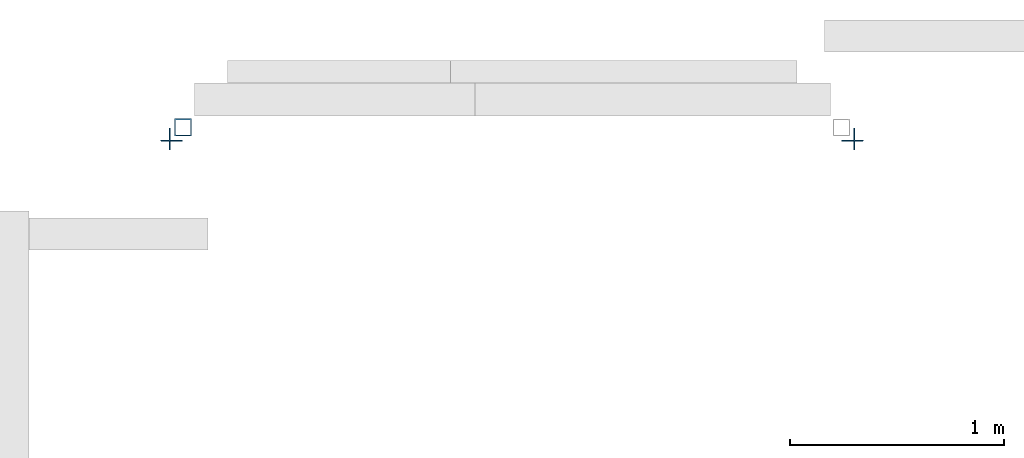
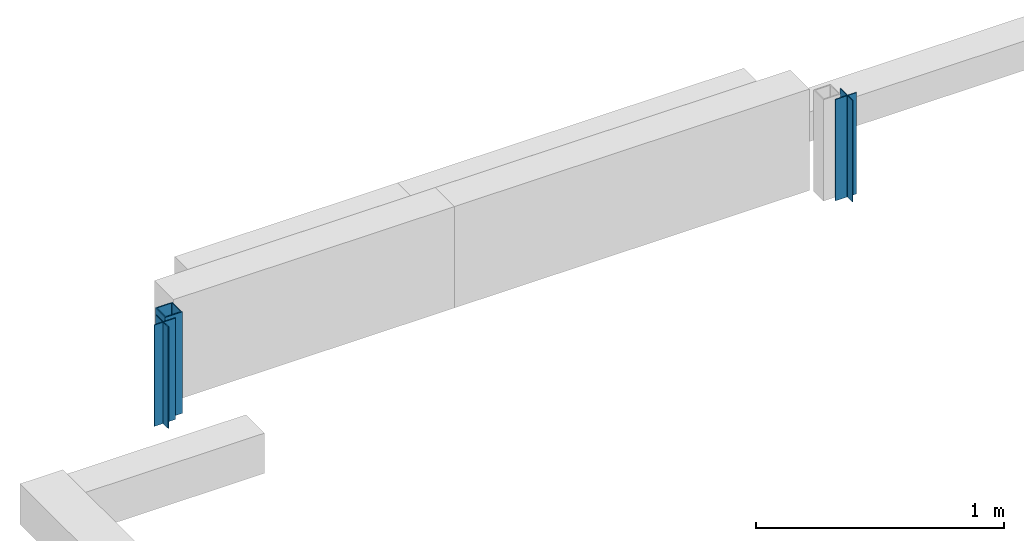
# One storey, part 2 of 3: 3 columns.
"""IFC2X3 building model written with IfcOpenShell, lengths in millimetres."""

from ifc_helpers import new_model, entity, si_unit, converted_unit, derived_unit, direction, frame, origin_with_axes, place, context, subcontext, project, spatial, faceted_brep, material, type_object, element, save


model = new_model("IFC2X3")

# Units and contexts
model_context = context("Model", 3, precision=0.01, world=frame((0.0, 4.29681676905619e-09, 0.0)), true_north=direction((4.01073788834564e-13, 1.0)))
plan_context = context("Plan", 3, precision=0.01, world=frame((0.0, 4.29681676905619e-09, 0.0)), true_north=direction((4.01073788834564e-13, 1.0)))
body_context = subcontext(model_context, "Body", "Model", "MODEL_VIEW")
ifc_project = project(units=[converted_unit("PLANEANGLEUNIT", "DEGREE", entity("IfcPositiveLengthMeasure", 0.0174532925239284), si_unit("PLANEANGLEUNIT", "RADIAN"), dimensions=[0, 0, 0, 0, 0, 0, 0]), si_unit("AREAUNIT", "SQUARE_METRE"), si_unit("LENGTHUNIT", "METRE", prefix="MILLI"), si_unit("MASSUNIT", "GRAM", prefix="KILO"), si_unit("POWERUNIT", "WATT"), si_unit("PRESSUREUNIT", "PASCAL"), si_unit("FORCEUNIT", "NEWTON", prefix="KILO"), si_unit("ELECTRICVOLTAGEUNIT", "VOLT"), si_unit("ELECTRICCURRENTUNIT", "AMPERE"), si_unit("THERMODYNAMICTEMPERATUREUNIT", "DEGREE_CELSIUS"), si_unit("TIMEUNIT", "SECOND"), si_unit("VOLUMEUNIT", "CUBIC_METRE"), derived_unit("LINEARVELOCITYUNIT", [(si_unit("LENGTHUNIT", "METRE"), 1), (si_unit("TIMEUNIT", "SECOND"), -1)]), derived_unit("VOLUMETRICFLOWRATEUNIT", [(si_unit("VOLUMEUNIT", "CUBIC_METRE"), 1), (si_unit("TIMEUNIT", "SECOND"), -1)]), derived_unit("THERMALTRANSMITTANCEUNIT", [(si_unit("POWERUNIT", "WATT"), 1), (si_unit("THERMODYNAMICTEMPERATUREUNIT", "KELVIN"), -1), (si_unit("AREAUNIT", "SQUARE_METRE"), -1)]), derived_unit("SOUNDPRESSUREUNIT", [(si_unit("PRESSUREUNIT", "PASCAL"), 1)])], contexts=[model_context, plan_context])

# Site, building, storey
site_placement = place(None, origin_with_axes())
site = spatial("IfcSite", under=ifc_project, at=site_placement, Name="ENGM", CompositionType="ELEMENT")
building_placement = place(site_placement, origin_with_axes())
building = spatial("IfcBuilding", under=site, at=building_placement, Name="TI", CompositionType="ELEMENT")
storey_placement = place(building_placement, frame((0.0, 0.0, 213700.0), z_axis=(0.0, 0.0, 1.0), x_axis=(1.0, 0.0, 0.0)))
storey = spatial("IfcBuildingStorey", under=building, at=storey_placement, Name="Nivå G - 2,0m", CompositionType="ELEMENT", Elevation=213700.0)

# Columns
ifc_material_1 = material(Name="_NSW Stål")
column_type_1 = type_object("IfcColumnType", Name="B222 - HUP:B222 - HUP - 80 x 80 x 5 mm", PredefinedType="COLUMN", material=ifc_material_1)
column_1_placement = place(storey_placement, frame((598989.513867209, 698974.999999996, -213700.0), z_axis=(0.0, 0.0, 1.0), x_axis=(-1.0, 0.0, 0.0)))
element("IfcColumn", 1, at=column_1_placement, inside=storey, type_object=column_type_1, Name="B222 - HUP:B222 - HUP - 80 x 80 x 5 mm", ObjectType="B222 - HUP:B222 - HUP - 80 x 80 x 5 mm", context=body_context, shape_type="Brep", body=[
    faceted_brep([(32.8910861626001, -34.969220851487, 214200.0), (32.4999999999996, -35.0, 214200.0), (32.4999999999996, -35.0, 213700.0), (32.8910861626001, -34.969220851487, 213700.0), (-32.4999999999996, -35.0, 214200.0), (-32.4999999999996, -35.0, 213700.0), (-32.9341204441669, -34.9620193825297, 214200.0), (-32.9341204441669, -34.9620193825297, 213700.0), (-33.3550503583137, -34.8492315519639, 214200.0), (-33.3550503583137, -34.8492315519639, 213700.0), (-33.7499999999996, -34.6650635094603, 214200.0), (-33.7499999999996, -34.6650635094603, 213700.0), (-34.1069690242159, -34.4151111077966, 214200.0), (-34.1069690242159, -34.4151111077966, 213700.0), (-34.415111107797, -34.1069690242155, 214200.0), (-34.415111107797, -34.1069690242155, 213700.0), (-34.6650635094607, -33.7499999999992, 214200.0), (-34.6650635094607, -33.7499999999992, 213700.0), (-34.8492315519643, -33.3550503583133, 214200.0), (-34.8492315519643, -33.3550503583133, 213700.0), (-34.9620193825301, -32.9341204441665, 214200.0), (-34.9620193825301, -32.9341204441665, 213700.0), (-35.0, -32.4999999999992, 214200.0), (-35.0, -32.4999999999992, 213700.0), (-35.0, 32.5000000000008, 214200.0), (-35.0, 32.5000000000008, 213700.0), (-34.9620193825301, 32.9341204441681, 214200.0), (-34.9620193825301, 32.9341204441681, 213700.0), (-34.8492315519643, 33.355050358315, 214200.0), (-34.8492315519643, 33.355050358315, 213700.0), (-34.6650635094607, 33.7500000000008, 214200.0), (-34.6650635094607, 33.7500000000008, 213700.0), (-34.415111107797, 34.1069690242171, 214200.0), (-34.415111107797, 34.1069690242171, 213700.0), (-34.1069690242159, 34.4151111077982, 214200.0), (-34.1069690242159, 34.4151111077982, 213700.0), (-33.7499999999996, 34.6650635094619, 214200.0), (-33.7499999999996, 34.6650635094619, 213700.0), (-33.3550503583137, 34.8492315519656, 214200.0), (-33.3550503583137, 34.8492315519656, 213700.0), (-32.9341204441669, 34.9620193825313, 214200.0), (-32.9341204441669, 34.9620193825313, 213700.0), (-32.4999999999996, 35.0000000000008, 214200.0), (-32.4999999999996, 35.0000000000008, 213700.0), (32.4999999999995, 35.0000000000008, 214200.0), (32.4999999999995, 35.0000000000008, 213700.0), (32.8910861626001, 34.9692208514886, 214200.0), (32.8910861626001, 34.9692208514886, 213700.0), (33.2725424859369, 34.8776412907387, 214200.0), (33.2725424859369, 34.8776412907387, 213700.0), (33.6349762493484, 34.7275163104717, 214200.0), (33.6349762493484, 34.7275163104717, 213700.0), (33.9694631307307, 34.5225424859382, 214200.0), (33.9694631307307, 34.5225424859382, 213700.0), (34.2677669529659, 34.2677669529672, 214200.0), (34.2677669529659, 34.2677669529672, 213700.0), (34.5225424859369, 33.969463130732, 214200.0), (34.5225424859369, 33.969463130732, 213700.0), (34.7275163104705, 33.6349762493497, 214200.0), (34.7275163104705, 33.6349762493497, 213700.0), (34.8776412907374, 33.2725424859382, 214200.0), (34.8776412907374, 33.2725424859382, 213700.0), (34.9692208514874, 32.8910861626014, 214200.0), (34.9692208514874, 32.8910861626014, 213700.0), (35.0, 32.5000000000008, 214200.0), (35.0, 32.5000000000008, 213700.0), (35.0, -32.4999999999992, 214200.0), (35.0, -32.4999999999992, 213700.0), (34.9692208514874, -32.8910861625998, 214200.0), (34.9692208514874, -32.8910861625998, 213700.0), (34.8776412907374, -33.2725424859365, 214200.0), (34.8776412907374, -33.2725424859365, 213700.0), (34.7275163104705, -33.634976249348, 214200.0), (34.7275163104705, -33.634976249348, 213700.0), (34.5225424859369, -33.9694631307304, 214200.0), (34.5225424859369, -33.9694631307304, 213700.0), (34.2677669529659, -34.2677669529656, 214200.0), (34.2677669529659, -34.2677669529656, 213700.0), (33.9694631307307, -34.5225424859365, 214200.0), (33.9694631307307, -34.5225424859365, 213700.0), (33.6349762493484, -34.7275163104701, 214200.0), (33.6349762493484, -34.7275163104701, 213700.0), (33.2725424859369, -34.8776412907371, 214200.0), (33.2725424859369, -34.8776412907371, 213700.0), (-35.0, -40.0, 214200.0), (34.9999999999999, -40.0, 214200.0), (34.9999999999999, -40.0, 213700.0), (-35.0, -40.0, 213700.0), (35.8682408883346, -39.924038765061, 214200.0), (35.8682408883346, -39.924038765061, 213700.0), (36.7101007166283, -39.6984631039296, 214200.0), (36.7101007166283, -39.6984631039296, 213700.0), (37.4999999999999, -39.3301270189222, 214200.0), (37.4999999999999, -39.3301270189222, 213700.0), (38.2139380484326, -38.8302222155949, 214200.0), (38.2139380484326, -38.8302222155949, 213700.0), (38.8302222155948, -38.2139380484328, 214200.0), (38.8302222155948, -38.2139380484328, 213700.0), (39.3301270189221, -37.5000000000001, 214200.0), (39.3301270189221, -37.5000000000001, 213700.0), (39.6984631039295, -36.7101007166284, 214200.0), (39.6984631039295, -36.7101007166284, 213700.0), (39.924038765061, -35.8682408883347, 214200.0), (39.924038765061, -35.8682408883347, 213700.0), (40.0, -35.0, 214200.0), (40.0, -35.0, 213700.0), (40.0, 34.9999999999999, 214200.0), (40.0, 34.9999999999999, 213700.0), (39.9384417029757, 35.7821723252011, 214200.0), (39.9384417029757, 35.7821723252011, 213700.0), (39.7552825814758, 36.5450849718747, 214200.0), (39.7552825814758, 36.5450849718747, 213700.0), (39.4550326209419, 37.2699524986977, 214200.0), (39.4550326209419, 37.2699524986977, 213700.0), (39.0450849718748, 37.9389262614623, 214200.0), (39.0450849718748, 37.9389262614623, 213700.0), (38.5355339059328, 38.5355339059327, 214200.0), (38.5355339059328, 38.5355339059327, 213700.0), (37.9389262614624, 39.0450849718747, 214200.0), (37.9389262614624, 39.0450849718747, 213700.0), (37.2699524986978, 39.4550326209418, 214200.0), (37.2699524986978, 39.4550326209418, 213700.0), (36.5450849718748, 39.7552825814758, 214200.0), (36.5450849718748, 39.7552825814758, 213700.0), (35.7821723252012, 39.9384417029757, 214200.0), (35.7821723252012, 39.9384417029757, 213700.0), (35.0, 40.0, 214200.0), (35.0, 40.0, 213700.0), (-35.0, 40.0, 214200.0), (-35.0, 40.0, 213700.0), (-35.8682408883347, 39.924038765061, 214200.0), (-35.8682408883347, 39.924038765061, 213700.0), (-36.7101007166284, 39.6984631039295, 214200.0), (-36.7101007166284, 39.6984631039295, 213700.0), (-37.5, 39.3301270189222, 214200.0), (-37.5, 39.3301270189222, 213700.0), (-38.2139380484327, 38.8302222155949, 214200.0), (-38.2139380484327, 38.8302222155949, 213700.0), (-38.8302222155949, 38.2139380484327, 214200.0), (-38.8302222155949, 38.2139380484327, 213700.0), (-39.3301270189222, 37.5, 214200.0), (-39.3301270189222, 37.5, 213700.0), (-39.6984631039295, 36.7101007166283, 214200.0), (-39.6984631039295, 36.7101007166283, 213700.0), (-39.924038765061, 35.8682408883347, 214200.0), (-39.924038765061, 35.8682408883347, 213700.0), (-40.0, 35.0, 214200.0), (-40.0, 35.0, 213700.0), (-40.0, -35.0, 214200.0), (-40.0, -35.0, 213700.0), (-39.924038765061, -35.8682408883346, 214200.0), (-39.924038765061, -35.8682408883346, 213700.0), (-39.6984631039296, -36.7101007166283, 214200.0), (-39.6984631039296, -36.7101007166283, 213700.0), (-39.3301270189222, -37.5, 214200.0), (-39.3301270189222, -37.5, 213700.0), (-38.8302222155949, -38.2139380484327, 214200.0), (-38.8302222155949, -38.2139380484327, 213700.0), (-38.2139380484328, -38.8302222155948, 214200.0), (-38.2139380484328, -38.8302222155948, 213700.0), (-37.5000000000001, -39.3301270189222, 214200.0), (-37.5000000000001, -39.3301270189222, 213700.0), (-36.7101007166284, -39.6984631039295, 214200.0), (-36.7101007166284, -39.6984631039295, 213700.0), (-35.8682408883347, -39.924038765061, 214200.0), (-35.8682408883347, -39.924038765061, 213700.0)], [[[0, 1, 2, 3]], [[1, 4, 5, 2]], [[4, 6, 7, 5]], [[6, 8, 9, 7]], [[8, 10, 11, 9]], [[10, 12, 13, 11]], [[12, 14, 15, 13]], [[14, 16, 17, 15]], [[16, 18, 19, 17]], [[18, 20, 21, 19]], [[20, 22, 23, 21]], [[22, 24, 25, 23]], [[24, 26, 27, 25]], [[26, 28, 29, 27]], [[28, 30, 31, 29]], [[30, 32, 33, 31]], [[32, 34, 35, 33]], [[34, 36, 37, 35]], [[36, 38, 39, 37]], [[38, 40, 41, 39]], [[40, 42, 43, 41]], [[42, 44, 45, 43]], [[44, 46, 47, 45]], [[46, 48, 49, 47]], [[48, 50, 51, 49]], [[50, 52, 53, 51]], [[52, 54, 55, 53]], [[54, 56, 57, 55]], [[56, 58, 59, 57]], [[58, 60, 61, 59]], [[60, 62, 63, 61]], [[62, 64, 65, 63]], [[64, 66, 67, 65]], [[66, 68, 69, 67]], [[68, 70, 71, 69]], [[70, 72, 73, 71]], [[72, 74, 75, 73]], [[74, 76, 77, 75]], [[76, 78, 79, 77]], [[78, 80, 81, 79]], [[80, 82, 83, 81]], [[82, 0, 3, 83]], [[84, 85, 86, 87]], [[85, 88, 89, 86]], [[88, 90, 91, 89]], [[90, 92, 93, 91]], [[92, 94, 95, 93]], [[94, 96, 97, 95]], [[96, 98, 99, 97]], [[98, 100, 101, 99]], [[100, 102, 103, 101]], [[102, 104, 105, 103]], [[104, 106, 107, 105]], [[106, 108, 109, 107]], [[108, 110, 111, 109]], [[110, 112, 113, 111]], [[112, 114, 115, 113]], [[114, 116, 117, 115]], [[116, 118, 119, 117]], [[118, 120, 121, 119]], [[120, 122, 123, 121]], [[122, 124, 125, 123]], [[124, 126, 127, 125]], [[126, 128, 129, 127]], [[128, 130, 131, 129]], [[130, 132, 133, 131]], [[132, 134, 135, 133]], [[134, 136, 137, 135]], [[136, 138, 139, 137]], [[138, 140, 141, 139]], [[140, 142, 143, 141]], [[142, 144, 145, 143]], [[144, 146, 147, 145]], [[146, 148, 149, 147]], [[148, 150, 151, 149]], [[150, 152, 153, 151]], [[152, 154, 155, 153]], [[154, 156, 157, 155]], [[156, 158, 159, 157]], [[158, 160, 161, 159]], [[160, 162, 163, 161]], [[162, 164, 165, 163]], [[164, 84, 87, 165]], [[87, 86, 89, 91, 93, 95, 97, 99, 101, 103, 105, 107, 109, 111, 113, 115, 117, 119, 121, 123, 125, 127, 129, 131, 133, 135, 137, 139, 141, 143, 145, 147, 149, 151, 153, 155, 157, 159, 161, 163, 165], [3, 2, 5, 7, 9, 11, 13, 15, 17, 19, 21, 23, 25, 27, 29, 31, 33, 35, 37, 39, 41, 43, 45, 47, 49, 51, 53, 55, 57, 59, 61, 63, 65, 67, 69, 71, 73, 75, 77, 79, 81, 83]], [[164, 162, 160, 158, 156, 154, 152, 150, 148, 146, 144, 142, 140, 138, 136, 134, 132, 130, 128, 126, 124, 122, 120, 118, 116, 114, 112, 110, 108, 106, 104, 102, 100, 98, 96, 94, 92, 90, 88, 85, 84], [82, 80, 78, 76, 74, 72, 70, 68, 66, 64, 62, 60, 58, 56, 54, 52, 50, 48, 46, 44, 42, 40, 38, 36, 34, 32, 30, 28, 26, 24, 22, 20, 18, 16, 14, 12, 10, 8, 6, 4, 1, 0]]], orient=[[False], [False], [False], [False], [False], [False], [False], [False], [False], [False], [False], [False], [False], [False], [False], [False], [False], [False], [False], [False], [False], [False], [False], [False], [False], [False], [False], [False], [False], [False], [False], [False], [False], [False], [False], [False], [False], [False], [False], [False], [False], [False], [False], [False], [False], [False], [False], [False], [False], [False], [False], [False], [False], [False], [False], [False], [False], [False], [False], [False], [False], [False], [False], [False], [False], [False], [False], [False], [False], [False], [False], [False], [False], [False], [False], [False], [False], [False], [False], [False], [False], [False], [False], [False, False], [False, False]]),
    faceted_brep([(35.0, 35.0, 214200.0), (35.0, -35.0, 214200.0), (35.0, -35.0, 213700.0), (35.0, 35.0, 213700.0), (-35.0, -35.0, 214200.0), (-35.0, -35.0, 213700.0), (-35.0, 35.0, 214200.0), (-35.0, 35.0, 213700.0), (-40.0, -40.0, 214200.0), (40.0, -40.0, 214200.0), (40.0, -40.0, 213700.0), (-40.0, -40.0, 213700.0), (40.0, 40.0, 214200.0), (40.0, 40.0, 213700.0), (-40.0, 40.0, 214200.0), (-40.0, 40.0, 213700.0)], [[[0, 1, 2, 3]], [[1, 4, 5, 2]], [[4, 6, 7, 5]], [[6, 0, 3, 7]], [[8, 9, 10, 11]], [[9, 12, 13, 10]], [[12, 14, 15, 13]], [[14, 8, 11, 15]], [[11, 10, 13, 15], [3, 2, 5, 7]], [[14, 12, 9, 8], [6, 4, 1, 0]]], orient=[[False], [False], [False], [False], [False], [False], [False], [False], [False, False], [False, False]]),
])
ifc_material_2 = material(Name="_NSW Aluminium")
column_type_2 = type_object("IfcColumnType", Name="A222 - Ekstrudert Aluminiumsprofil - Hjørneprofil - Hel:A222 - Ekstrudert Aluminiumsprofil", PredefinedType="COLUMN", material=ifc_material_2)
column_2_placement = place(storey_placement, frame((602102.506445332, 698929.999999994, -213700.0), z_axis=(0.0, 0.0, 1.0), x_axis=(1.0, 0.0, 0.0)))
element("IfcColumn", 2, at=column_2_placement, inside=storey, type_object=column_type_2, Name="A222 - Ekstrudert Aluminiumsprofil - Hjørneprofil - Hel:A222 - Ekstrudert Aluminiumsprofil", ObjectType="A222 - Ekstrudert Aluminiumsprofil - Hjørneprofil - Hel:A222 - Ekstrudert Aluminiumsprofil", context=body_context, shape_type="Brep", body=[
    faceted_brep([(15.0000000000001, -60.0000000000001, 214200.0), (16.0482090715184, -60.0, 214200.0), (16.0482090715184, -60.0, 213700.0), (15.0000000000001, -60.0000000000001, 213700.0), (16.5099709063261, -59.9636585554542, 214200.0), (16.5099709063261, -59.9636585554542, 213700.0), (16.9603626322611, -59.8555290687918, 214200.0), (16.9603626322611, -59.8555290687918, 213700.0), (17.3882941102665, -59.6782740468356, 214200.0), (17.3882941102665, -59.6782740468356, 213700.0), (17.7832282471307, -59.4362580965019, 214200.0), (17.7832282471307, -59.4362580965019, 213700.0), (18.1354404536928, -59.1354404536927, 214200.0), (18.1354404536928, -59.1354404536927, 213700.0), (18.4362580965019, -58.7832282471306, 214200.0), (18.4362580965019, -58.7832282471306, 213700.0), (18.6782740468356, -58.3882941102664, 214200.0), (18.6782740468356, -58.3882941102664, 213700.0), (18.8555290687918, -57.960362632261, 214200.0), (18.8555290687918, -57.960362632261, 213700.0), (18.9636585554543, -57.509970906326, 214200.0), (18.9636585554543, -57.509970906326, 213700.0), (19.0000000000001, -57.0482090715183, 214200.0), (19.0000000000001, -57.0482090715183, 213700.0), (19.0000000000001, -19.9987430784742, 214200.0), (19.0000000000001, -19.9987430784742, 213700.0), (19.0151731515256, -19.8253131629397, 214200.0), (19.0151731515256, -19.8253131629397, 213700.0), (19.0602315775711, -19.657152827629, 214200.0), (19.0602315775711, -19.657152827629, 213700.0), (19.1338062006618, -19.4993715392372, 214200.0), (19.1338062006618, -19.4993715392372, 213700.0), (19.2336614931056, -19.3567634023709, 214200.0), (19.2336614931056, -19.3567634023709, 213700.0), (19.3567634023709, -19.2336614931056, 214200.0), (19.3567634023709, -19.2336614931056, 213700.0), (19.4993715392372, -19.1338062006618, 214200.0), (19.4993715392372, -19.1338062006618, 213700.0), (19.657152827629, -19.0602315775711, 214200.0), (19.657152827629, -19.0602315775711, 213700.0), (19.8253131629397, -19.0151731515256, 214200.0), (19.8253131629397, -19.0151731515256, 213700.0), (19.9987430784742, -19.0000000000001, 214200.0), (19.9987430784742, -19.0000000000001, 213700.0), (57.0087872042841, -19.0000000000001, 214200.0), (57.0087872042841, -19.0000000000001, 213700.0), (57.4767159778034, -18.9631732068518, 214200.0), (57.4767159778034, -18.9631732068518, 213700.0), (57.9331227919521, -18.8535996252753, 214200.0), (57.9331227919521, -18.8535996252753, 213700.0), (58.3667693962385, -18.6739773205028, 214200.0), (58.3667693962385, -18.6739773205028, 213700.0), (58.7669779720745, -18.4287291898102, 214200.0), (58.7669779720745, -18.4287291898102, 213700.0), (59.1238940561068, -18.1238940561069, 214200.0), (59.1238940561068, -18.1238940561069, 213700.0), (59.4287291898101, -17.7669779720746, 214200.0), (59.4287291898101, -17.7669779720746, 213700.0), (59.6739773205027, -17.3667693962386, 214200.0), (59.6739773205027, -17.3667693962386, 213700.0), (59.8535996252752, -16.9331227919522, 214200.0), (59.8535996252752, -16.9331227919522, 213700.0), (59.9631732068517, -16.4767159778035, 214200.0), (59.9631732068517, -16.4767159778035, 213700.0), (60.0, -16.0087872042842, 214200.0), (60.0, -16.0087872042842, 213700.0), (60.0000000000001, -15.0000000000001, 214200.0), (60.0000000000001, -15.0000000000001, 213700.0), (20.0342815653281, -15.0000000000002, 214200.0), (20.0342815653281, -15.0000000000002, 213700.0), (19.8546804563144, -14.9842869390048, 214200.0), (19.8546804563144, -14.9842869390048, 213700.0), (19.6805364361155, -14.9376251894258, 214200.0), (19.6805364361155, -14.9376251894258, 213700.0), (19.5171407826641, -14.8614325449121, 214200.0), (19.5171407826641, -14.8614325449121, 213700.0), (19.3694581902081, -14.7580240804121, 214200.0), (19.3694581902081, -14.7580240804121, 213700.0), (19.2419759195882, -14.6305418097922, 214200.0), (19.2419759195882, -14.6305418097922, 213700.0), (19.1385674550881, -14.4828592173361, 214200.0), (19.1385674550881, -14.4828592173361, 213700.0), (19.0623748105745, -14.3194635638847, 214200.0), (19.0623748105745, -14.3194635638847, 213700.0), (19.0157130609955, -14.1453195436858, 214200.0), (19.0157130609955, -14.1453195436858, 213700.0), (19.0000000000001, -13.9657184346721, 214200.0), (19.0000000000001, -13.9657184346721, 213700.0), (19.0000000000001, 39.9999999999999, 214200.0), (19.0000000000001, 39.9999999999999, 213700.0), (15.0000000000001, 39.9999999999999, 214200.0), (15.0000000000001, 39.9999999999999, 213700.0), (15.0000000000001, -15.0000000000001, 214200.0), (15.0000000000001, -15.0000000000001, 213700.0), (-40.0, -15.0000000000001, 214200.0), (-40.0, -15.0000000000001, 213700.0), (-40.0, -19.0000000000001, 214200.0), (-40.0, -19.0000000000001, 213700.0), (14.0168182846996, -19.0000000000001, 214200.0), (14.0168182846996, -19.0000000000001, 213700.0), (14.187545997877, -19.0149367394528, 214200.0), (14.187545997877, -19.0149367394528, 213700.0), (14.3530862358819, -19.0592931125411, 214200.0), (14.3530862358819, -19.0592931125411, 213700.0), (14.5084091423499, -19.131721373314, 214200.0), (14.5084091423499, -19.131721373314, 213700.0), (14.6487953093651, -19.2300208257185, 214200.0), (14.6487953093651, -19.2300208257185, 213700.0), (14.7699791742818, -19.3512046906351, 214200.0), (14.7699791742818, -19.3512046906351, 213700.0), (14.8682786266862, -19.4915908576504, 214200.0), (14.8682786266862, -19.4915908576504, 213700.0), (14.9407068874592, -19.6469137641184, 214200.0), (14.9407068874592, -19.6469137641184, 213700.0), (14.9850632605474, -19.8124540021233, 214200.0), (14.9850632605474, -19.8124540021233, 213700.0), (15.0000000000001, -19.9831817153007, 214200.0), (15.0000000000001, -19.9831817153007, 213700.0)], [[[0, 1, 2, 3]], [[1, 4, 5, 2]], [[4, 6, 7, 5]], [[6, 8, 9, 7]], [[8, 10, 11, 9]], [[10, 12, 13, 11]], [[12, 14, 15, 13]], [[14, 16, 17, 15]], [[16, 18, 19, 17]], [[18, 20, 21, 19]], [[20, 22, 23, 21]], [[22, 24, 25, 23]], [[24, 26, 27, 25]], [[26, 28, 29, 27]], [[28, 30, 31, 29]], [[30, 32, 33, 31]], [[32, 34, 35, 33]], [[34, 36, 37, 35]], [[36, 38, 39, 37]], [[38, 40, 41, 39]], [[40, 42, 43, 41]], [[42, 44, 45, 43]], [[44, 46, 47, 45]], [[46, 48, 49, 47]], [[48, 50, 51, 49]], [[50, 52, 53, 51]], [[52, 54, 55, 53]], [[54, 56, 57, 55]], [[56, 58, 59, 57]], [[58, 60, 61, 59]], [[60, 62, 63, 61]], [[62, 64, 65, 63]], [[64, 66, 67, 65]], [[66, 68, 69, 67]], [[68, 70, 71, 69]], [[70, 72, 73, 71]], [[72, 74, 75, 73]], [[74, 76, 77, 75]], [[76, 78, 79, 77]], [[78, 80, 81, 79]], [[80, 82, 83, 81]], [[82, 84, 85, 83]], [[84, 86, 87, 85]], [[86, 88, 89, 87]], [[88, 90, 91, 89]], [[90, 92, 93, 91]], [[92, 94, 95, 93]], [[94, 96, 97, 95]], [[96, 98, 99, 97]], [[98, 100, 101, 99]], [[100, 102, 103, 101]], [[102, 104, 105, 103]], [[104, 106, 107, 105]], [[106, 108, 109, 107]], [[108, 110, 111, 109]], [[110, 112, 113, 111]], [[112, 114, 115, 113]], [[114, 116, 117, 115]], [[116, 0, 3, 117]], [[3, 2, 5, 7, 9, 11, 13, 15, 17, 19, 21, 23, 25, 27, 29, 31, 33, 35, 37, 39, 41, 43, 45, 47, 49, 51, 53, 55, 57, 59, 61, 63, 65, 67, 69, 71, 73, 75, 77, 79, 81, 83, 85, 87, 89, 91, 93, 95, 97, 99, 101, 103, 105, 107, 109, 111, 113, 115, 117]], [[116, 114, 112, 110, 108, 106, 104, 102, 100, 98, 96, 94, 92, 90, 88, 86, 84, 82, 80, 78, 76, 74, 72, 70, 68, 66, 64, 62, 60, 58, 56, 54, 52, 50, 48, 46, 44, 42, 40, 38, 36, 34, 32, 30, 28, 26, 24, 22, 20, 18, 16, 14, 12, 10, 8, 6, 4, 1, 0]]], orient=[[False], [False], [False], [False], [False], [False], [False], [False], [False], [False], [False], [False], [False], [False], [False], [False], [False], [False], [False], [False], [False], [False], [False], [False], [False], [False], [False], [False], [False], [False], [False], [False], [False], [False], [False], [False], [False], [False], [False], [False], [False], [False], [False], [False], [False], [False], [False], [False], [False], [False], [False], [False], [False], [False], [False], [False], [False], [False], [False], [False], [False]]),
])
column_type_3 = type_object("IfcColumnType", Name="A222 - Ekstrudert Aluminiumsprofil - Hjørneprofil - Hel:A222 - Ekstrudert Aluminiumsprofil", PredefinedType="COLUMN", material=ifc_material_2)
column_3_placement = place(storey_placement, frame((598944.513867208, 698929.999999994, -213700.0), z_axis=(0.0, 0.0, 1.0), x_axis=(-1.0, 0.0, 0.0)))
element("IfcColumn", 3, at=column_3_placement, inside=storey, type_object=column_type_3, Name="A222 - Ekstrudert Aluminiumsprofil - Hjørneprofil - Hel:A222 - Ekstrudert Aluminiumsprofil", ObjectType="A222 - Ekstrudert Aluminiumsprofil - Hjørneprofil - Hel:A222 - Ekstrudert Aluminiumsprofil", context=body_context, shape_type="Brep", body=[
    faceted_brep([(15.0000000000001, 60.0000000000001, 214200.0), (15.0000000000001, 19.9831817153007, 214200.0), (15.0000000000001, 19.9831817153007, 213700.0), (15.0000000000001, 60.0000000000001, 213700.0), (18.9636585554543, 57.509970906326, 214200.0), (18.8555290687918, 57.960362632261, 214200.0), (18.8555290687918, 57.960362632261, 213700.0), (18.9636585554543, 57.509970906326, 213700.0), (18.6782740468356, 58.3882941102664, 214200.0), (18.6782740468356, 58.3882941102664, 213700.0), (18.4362580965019, 58.7832282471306, 214200.0), (18.4362580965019, 58.7832282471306, 213700.0), (18.1354404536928, 59.1354404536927, 214200.0), (18.1354404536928, 59.1354404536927, 213700.0), (17.7832282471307, 59.4362580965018, 214200.0), (17.7832282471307, 59.4362580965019, 213700.0), (17.3882941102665, 59.6782740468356, 214200.0), (17.3882941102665, 59.6782740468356, 213700.0), (16.9603626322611, 59.8555290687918, 214200.0), (16.9603626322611, 59.8555290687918, 213700.0), (16.5099709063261, 59.9636585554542, 214200.0), (16.5099709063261, 59.9636585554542, 213700.0), (16.0482090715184, 60.0, 214200.0), (16.0482090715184, 60.0, 213700.0), (14.9850632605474, 19.8124540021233, 214200.0), (14.9850632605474, 19.8124540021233, 213700.0), (14.9407068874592, 19.6469137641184, 214200.0), (14.9407068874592, 19.6469137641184, 213700.0), (14.8682786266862, 19.4915908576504, 214200.0), (14.8682786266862, 19.4915908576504, 213700.0), (14.7699791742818, 19.3512046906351, 214200.0), (14.7699791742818, 19.3512046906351, 213700.0), (14.6487953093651, 19.2300208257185, 214200.0), (14.6487953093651, 19.2300208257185, 213700.0), (14.5084091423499, 19.131721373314, 214200.0), (14.5084091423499, 19.131721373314, 213700.0), (14.3530862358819, 19.0592931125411, 214200.0), (14.3530862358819, 19.0592931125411, 213700.0), (14.187545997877, 19.0149367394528, 214200.0), (14.187545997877, 19.0149367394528, 213700.0), (14.0168182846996, 19.0000000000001, 214200.0), (14.0168182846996, 19.0000000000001, 213700.0), (-40.0, 19.0000000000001, 214200.0), (-40.0, 19.0000000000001, 213700.0), (-40.0, 15.0000000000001, 214200.0), (-40.0, 15.0000000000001, 213700.0), (15.0000000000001, 15.0000000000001, 214200.0), (15.0000000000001, 15.0000000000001, 213700.0), (15.0000000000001, -39.9999999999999, 214200.0), (15.0000000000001, -39.9999999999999, 213700.0), (19.0000000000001, -39.9999999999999, 214200.0), (19.0000000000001, -39.9999999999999, 213700.0), (19.0000000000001, 13.9657184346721, 214200.0), (19.0000000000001, 13.9657184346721, 213700.0), (19.0157130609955, 14.1453195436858, 214200.0), (19.0157130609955, 14.1453195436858, 213700.0), (19.0623748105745, 14.3194635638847, 214200.0), (19.0623748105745, 14.3194635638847, 213700.0), (19.1385674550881, 14.4828592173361, 214200.0), (19.1385674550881, 14.4828592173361, 213700.0), (19.2419759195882, 14.6305418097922, 214200.0), (19.2419759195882, 14.6305418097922, 213700.0), (19.3694581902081, 14.7580240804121, 214200.0), (19.3694581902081, 14.7580240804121, 213700.0), (19.5171407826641, 14.8614325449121, 214200.0), (19.5171407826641, 14.8614325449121, 213700.0), (19.6805364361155, 14.9376251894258, 214200.0), (19.6805364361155, 14.9376251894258, 213700.0), (19.8546804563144, 14.9842869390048, 214200.0), (19.8546804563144, 14.9842869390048, 213700.0), (20.0342815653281, 15.0000000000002, 214200.0), (20.0342815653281, 15.0000000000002, 213700.0), (60.0000000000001, 15.0000000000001, 214200.0), (60.0, 15.0000000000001, 213700.0), (60.0, 16.0087872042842, 214200.0), (60.0, 16.0087872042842, 213700.0), (59.9631732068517, 16.4767159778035, 214200.0), (59.9631732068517, 16.4767159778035, 213700.0), (59.8535996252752, 16.9331227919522, 214200.0), (59.8535996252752, 16.9331227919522, 213700.0), (59.6739773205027, 17.3667693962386, 214200.0), (59.6739773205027, 17.3667693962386, 213700.0), (59.4287291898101, 17.7669779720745, 214200.0), (59.4287291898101, 17.7669779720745, 213700.0), (59.1238940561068, 18.1238940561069, 214200.0), (59.1238940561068, 18.1238940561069, 213700.0), (58.7669779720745, 18.4287291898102, 214200.0), (58.7669779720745, 18.4287291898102, 213700.0), (58.3667693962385, 18.6739773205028, 214200.0), (58.3667693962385, 18.6739773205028, 213700.0), (57.9331227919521, 18.8535996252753, 214200.0), (57.9331227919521, 18.8535996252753, 213700.0), (57.4767159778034, 18.9631732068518, 214200.0), (57.4767159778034, 18.9631732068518, 213700.0), (57.0087872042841, 19.0000000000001, 214200.0), (57.0087872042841, 19.0000000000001, 213700.0), (19.9987430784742, 19.0000000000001, 214200.0), (19.9987430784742, 19.0000000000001, 213700.0), (19.8253131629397, 19.0151731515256, 214200.0), (19.8253131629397, 19.0151731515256, 213700.0), (19.657152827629, 19.0602315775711, 214200.0), (19.657152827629, 19.0602315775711, 213700.0), (19.4993715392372, 19.1338062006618, 214200.0), (19.4993715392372, 19.1338062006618, 213700.0), (19.3567634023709, 19.2336614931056, 214200.0), (19.3567634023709, 19.2336614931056, 213700.0), (19.2336614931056, 19.3567634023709, 214200.0), (19.2336614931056, 19.3567634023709, 213700.0), (19.1338062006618, 19.4993715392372, 214200.0), (19.1338062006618, 19.4993715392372, 213700.0), (19.0602315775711, 19.657152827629, 214200.0), (19.0602315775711, 19.657152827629, 213700.0), (19.0151731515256, 19.8253131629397, 214200.0), (19.0151731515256, 19.8253131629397, 213700.0), (19.0000000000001, 19.9987430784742, 214200.0), (19.0000000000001, 19.9987430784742, 213700.0), (19.0000000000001, 57.0482090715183, 214200.0), (19.0000000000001, 57.0482090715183, 213700.0)], [[[0, 1, 2, 3]], [[4, 5, 6, 7]], [[5, 8, 9, 6]], [[8, 10, 11, 9]], [[10, 12, 13, 11]], [[12, 14, 15, 13]], [[14, 16, 17, 15]], [[16, 18, 19, 17]], [[18, 20, 21, 19]], [[20, 22, 23, 21]], [[22, 0, 3, 23]], [[1, 24, 25, 2]], [[24, 26, 27, 25]], [[26, 28, 29, 27]], [[28, 30, 31, 29]], [[30, 32, 33, 31]], [[32, 34, 35, 33]], [[34, 36, 37, 35]], [[36, 38, 39, 37]], [[38, 40, 41, 39]], [[40, 42, 43, 41]], [[42, 44, 45, 43]], [[44, 46, 47, 45]], [[46, 48, 49, 47]], [[48, 50, 51, 49]], [[50, 52, 53, 51]], [[52, 54, 55, 53]], [[54, 56, 57, 55]], [[56, 58, 59, 57]], [[58, 60, 61, 59]], [[60, 62, 63, 61]], [[62, 64, 65, 63]], [[64, 66, 67, 65]], [[66, 68, 69, 67]], [[68, 70, 71, 69]], [[70, 72, 73, 71]], [[72, 74, 75, 73]], [[74, 76, 77, 75]], [[76, 78, 79, 77]], [[78, 80, 81, 79]], [[80, 82, 83, 81]], [[82, 84, 85, 83]], [[84, 86, 87, 85]], [[86, 88, 89, 87]], [[88, 90, 91, 89]], [[90, 92, 93, 91]], [[92, 94, 95, 93]], [[94, 96, 97, 95]], [[96, 98, 99, 97]], [[98, 100, 101, 99]], [[100, 102, 103, 101]], [[102, 104, 105, 103]], [[104, 106, 107, 105]], [[106, 108, 109, 107]], [[108, 110, 111, 109]], [[110, 112, 113, 111]], [[112, 114, 115, 113]], [[114, 116, 117, 115]], [[116, 4, 7, 117]], [[3, 2, 25, 27, 29, 31, 33, 35, 37, 39, 41, 43, 45, 47, 49, 51, 53, 55, 57, 59, 61, 63, 65, 67, 69, 71, 73, 75, 77, 79, 81, 83, 85, 87, 89, 91, 93, 95, 97, 99, 101, 103, 105, 107, 109, 111, 113, 115, 117, 7, 6, 9, 11, 13, 15, 17, 19, 21, 23]], [[22, 20, 18, 16, 14, 12, 10, 8, 5, 4, 116, 114, 112, 110, 108, 106, 104, 102, 100, 98, 96, 94, 92, 90, 88, 86, 84, 82, 80, 78, 76, 74, 72, 70, 68, 66, 64, 62, 60, 58, 56, 54, 52, 50, 48, 46, 44, 42, 40, 38, 36, 34, 32, 30, 28, 26, 24, 1, 0]]], orient=[[False], [False], [False], [False], [False], [False], [False], [False], [False], [False], [False], [False], [False], [False], [False], [False], [False], [False], [False], [False], [False], [False], [False], [False], [False], [False], [False], [False], [False], [False], [False], [False], [False], [False], [False], [False], [False], [False], [False], [False], [False], [False], [False], [False], [False], [False], [False], [False], [False], [False], [False], [False], [False], [False], [False], [False], [False], [False], [False], [False], [False]]),
])

save(model, "model.ifc")
